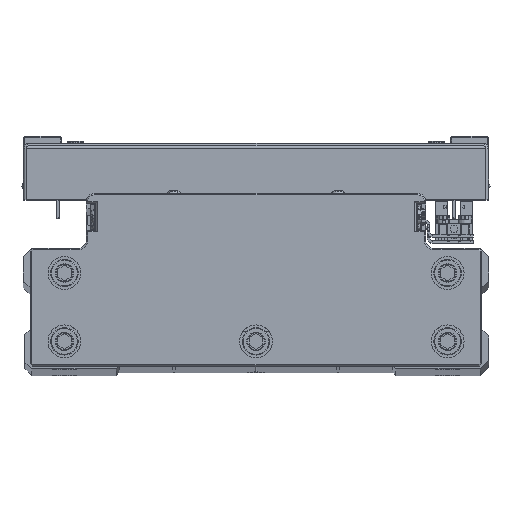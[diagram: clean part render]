
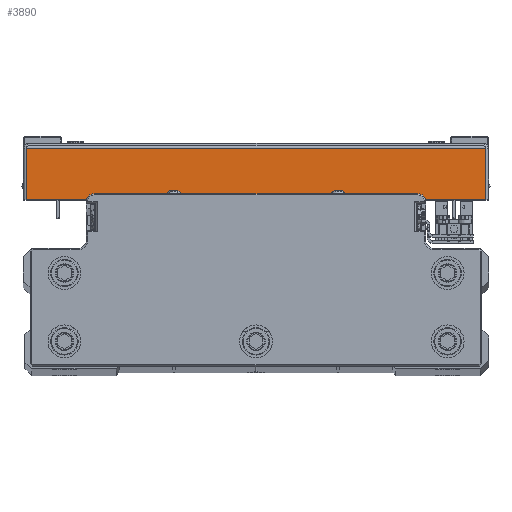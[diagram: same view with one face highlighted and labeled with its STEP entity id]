
A CAD part, top view. The second image highlights one B-rep face of the part: STEP entity #3890.
In plain terms, the highlighted planar face has unit normal (0, 0, 1) as drawn and (1, 0, 0) by its records, which use the part's own axes.
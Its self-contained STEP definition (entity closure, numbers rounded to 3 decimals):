
#2338 = DIRECTION ( 'NONE',  ( -1., 0., 0. ) ) ;
#2745 = LINE ( 'NONE', #16892, #18836 ) ;
#3637 = ORIENTED_EDGE ( 'NONE', *, *, #13405, .F. ) ;
#3890 = ADVANCED_FACE ( 'NONE', ( #5836 ), #19973, .F. ) ;
#5836 = FACE_OUTER_BOUND ( 'NONE', #37115, .T. ) ;
#6033 = CARTESIAN_POINT ( 'NONE',  ( 110., 19.5, 83.929 ) ) ;
#6679 = VECTOR ( 'NONE', #43425, 1000. ) ;
#7218 = CARTESIAN_POINT ( 'NONE',  ( 110., 19.5, 0. ) ) ;
#7752 = CARTESIAN_POINT ( 'NONE',  ( 110., 0., -83.929 ) ) ;
#8657 = VERTEX_POINT ( 'NONE', #35692 ) ;
#12302 = EDGE_CURVE ( 'NONE', #40317, #8657, #39489, .T. ) ;
#13286 = ORIENTED_EDGE ( 'NONE', *, *, #44820, .T. ) ;
#13405 = EDGE_CURVE ( 'NONE', #40317, #39782, #2745, .T. ) ;
#15149 = LINE ( 'NONE', #29317, #6679 ) ;
#16483 = DIRECTION ( 'NONE',  ( 0., -1., 0. ) ) ;
#16892 = CARTESIAN_POINT ( 'NONE',  ( 110., 1., 85. ) ) ;
#18836 = VECTOR ( 'NONE', #31054, 1000. ) ;
#19973 = PLANE ( 'NONE',  #22556 ) ;
#21371 = DIRECTION ( 'NONE',  ( 0., 0., 1. ) ) ;
#21850 = EDGE_CURVE ( 'NONE', #39782, #38900, #15149, .T. ) ;
#21901 = DIRECTION ( 'NONE',  ( 0., 1., 0. ) ) ;
#22556 = AXIS2_PLACEMENT_3D ( 'NONE', #34111, #2338, #16483 ) ;
#26160 = CARTESIAN_POINT ( 'NONE',  ( 110., 1., -83.929 ) ) ;
#29317 = CARTESIAN_POINT ( 'NONE',  ( 110., 0., 83.929 ) ) ;
#31054 = DIRECTION ( 'NONE',  ( 0., 0., 1. ) ) ;
#32250 = VECTOR ( 'NONE', #21371, 1000. ) ;
#34111 = CARTESIAN_POINT ( 'NONE',  ( 110., 0., 0. ) ) ;
#35692 = CARTESIAN_POINT ( 'NONE',  ( 110., 19.5, -83.929 ) ) ;
#37115 = EDGE_LOOP ( 'NONE', ( #3637, #42025, #13286, #38910 ) ) ;
#37259 = VECTOR ( 'NONE', #21901, 1000. ) ;
#38758 = CARTESIAN_POINT ( 'NONE',  ( 110., 1., 83.929 ) ) ;
#38900 = VERTEX_POINT ( 'NONE', #6033 ) ;
#38910 = ORIENTED_EDGE ( 'NONE', *, *, #21850, .F. ) ;
#38971 = LINE ( 'NONE', #7218, #32250 ) ;
#39489 = LINE ( 'NONE', #7752, #37259 ) ;
#39782 = VERTEX_POINT ( 'NONE', #38758 ) ;
#40317 = VERTEX_POINT ( 'NONE', #26160 ) ;
#42025 = ORIENTED_EDGE ( 'NONE', *, *, #12302, .T. ) ;
#43425 = DIRECTION ( 'NONE',  ( 0., 1., 0. ) ) ;
#44820 = EDGE_CURVE ( 'NONE', #8657, #38900, #38971, .T. ) ;
